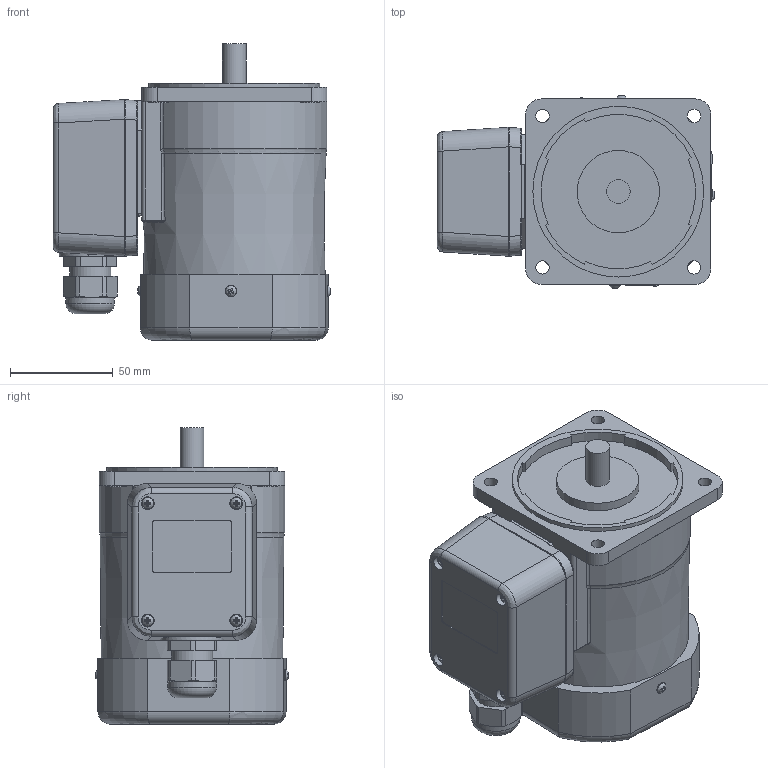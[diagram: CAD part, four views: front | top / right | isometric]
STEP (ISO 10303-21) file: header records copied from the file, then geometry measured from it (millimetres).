
FILE_DESCRIPTION(/* description */ (''),/* implementation_level */ '2;1');
FILE_NAME(/* name */ 'Z:\새 폴더\SG9I60G_-TA.stp',/* time_stamp */ '2023-11-24T09:23:19+09:00',/* author */ ('h22'),/* organization */ (''),/* preprocessor_version */ 'ST-DEVELOPER v18.1',/* originating_system */ 'Autodesk Inventor 2022',/* authorisation */ '');
FILE_SCHEMA (('AUTOMOTIVE_DESIGN { 1 0 10303 214 3 1 1 }'));
Length unit declared in the file: millimetre
Products named in the file (1): SG9I60G-TA
Bounding box: 134.93 x 93.88 x 143.9 mm (x, y, z)
Volume: 1003055.5 mm3; surface area: 78851.2 mm2
Topology: 1 solids, 13 shells, 487 faces, 1232 edges, 791 vertices
Faces by surface type: plane 262, cylinder 127, bspline 54, torus 33, cone 11
Full cylindrical faces by diameter (mm): 2.55 x2, 3 x4, 3.5 x4, 5.6 x8, 6.3 x4, 6.5 x4, 9.5 x4, 11.5 x1, 12.5 x1, 15 x1, 20 x2, 21 x1, 23.6 x1, 40 x1, 83 x1
Entity records: 17207 total; most frequent: CARTESIAN_POINT 5637, ORIENTED_EDGE 2452, DIRECTION 2281, EDGE_CURVE 1226, AXIS2_PLACEMENT_3D 818, VERTEX_POINT 790, LINE 645, VECTOR 645
